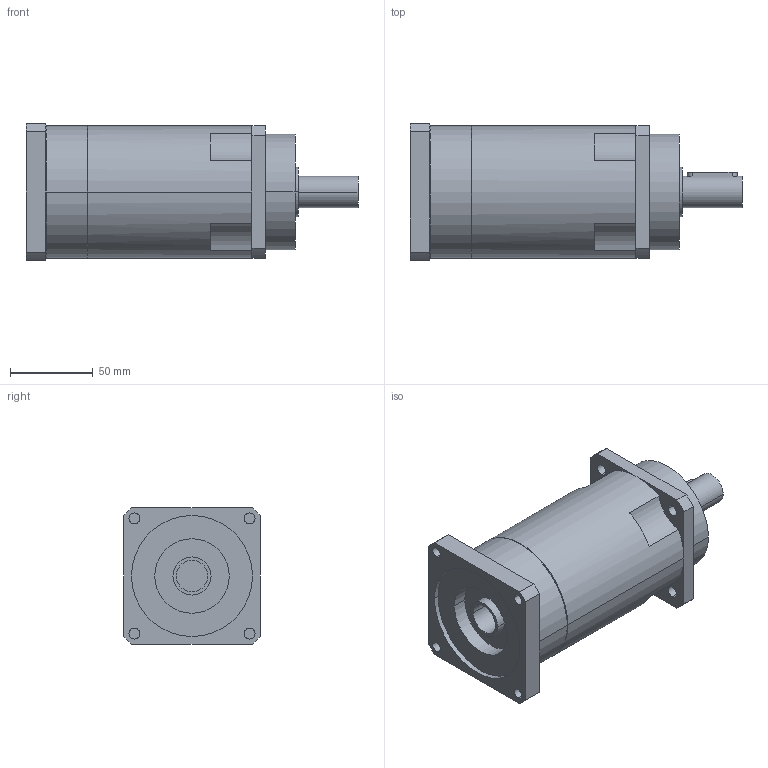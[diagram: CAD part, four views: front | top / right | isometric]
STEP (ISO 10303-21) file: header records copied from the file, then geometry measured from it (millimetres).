
FILE_DESCRIPTION(('CoCreate Modeling STEP Export'),'2;1');
FILE_NAME('GPR100_ig-48-64-80-100-120-144-180-216_19_B5_19_P05.stp','2014-08-26T11:56:45',(''),(''),'CoCreate Modeling STEP processor for AP214 (Solid Model)','CoCreate Modeling 16.00C 25-Feb-2009 (C) Parametric Technology GmbH','');
FILE_SCHEMA(('AUTOMOTIVE_DESIGN { 1 0 10303 214 1 1 1 1 }'));
Length unit declared in the file: millimetre
Products named in the file (2): GPR100_ig-48-64-80-100-120-144-180-216_19_B5_19_P05
Assembly tree (1 placements, depth 2):
  GPR100_ig-48-64-80-100-120-144-180-216_19_B5_19_P05
    GPR100_ig-48-64-80-100-120-144-180-216_19_B5_19_P05
Bounding box: 200.4 x 82.5 x 82.5 mm (x, y, z)
Volume: 792392 mm3; surface area: 66979.4 mm2
Topology: 1 solids, 1 shells, 86 faces, 241 edges, 165 vertices
Faces by surface type: cylinder 50, plane 30, cone 6
Entity records: 2547 total; most frequent: ORIENTED_EDGE 478, CARTESIAN_POINT 464, DIRECTION 376, EDGE_CURVE 239, VERTEX_POINT 165, AXIS2_PLACEMENT_3D 141, EDGE_LOOP 112, VECTOR 94
